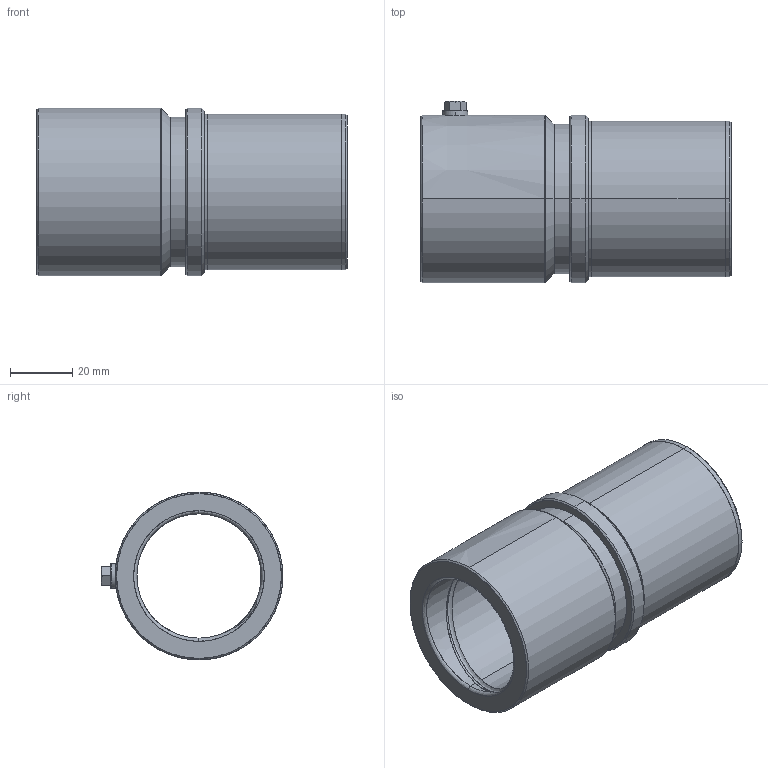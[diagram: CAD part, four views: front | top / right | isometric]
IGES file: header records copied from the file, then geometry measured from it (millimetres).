
Start section: SolidWorks IGES file using analytic representation for surfaces
Global section: file name: C:\Documents and Settings\kalite-mail\Desktop\HAZIR PARÇALAR\D23 Katý model(son kontrolü yapýlacak\D23 ÝGS\D23 - 40x46.IGS; native system: SolidWorks 2008; preprocessor: SolidWorks 2008; author: kalite-mail; date: 080716.130321; units: millimetre
Bounding box: 100 x 58.5 x 54 mm (x, y, z)
Surface area: 31645.1 mm2 (no closed solid volume)
Topology: 0 solids, 0 shells, 70 faces, 1802 edges, 1798 vertices
Faces by surface type: revolution 41, bspline 29
